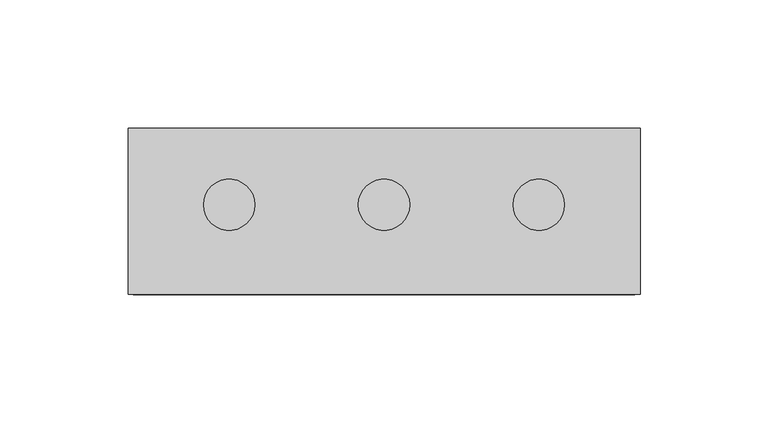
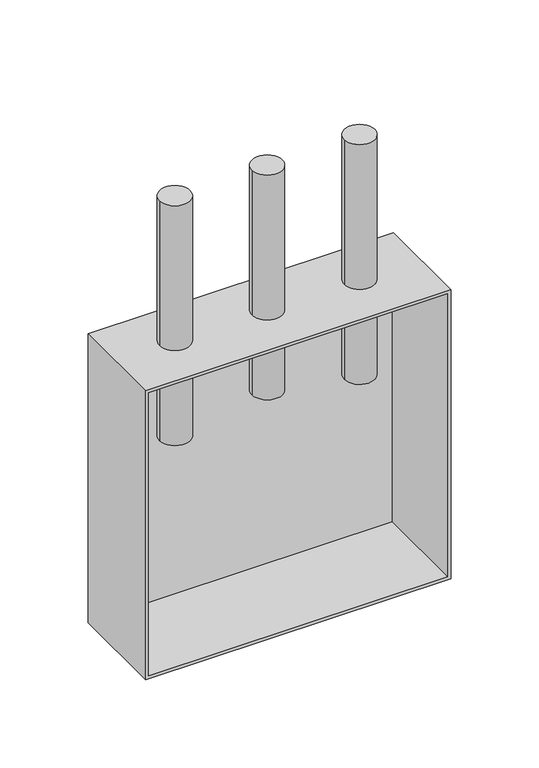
"""IFC4 building model written with IfcOpenShell, lengths in millimetres: flow terminal geometry, Plumbing Fixtures_Thermostatic Mixing Valve_Thornthwaite_Rada 215bk TMV in 200mm box : Rada 215bk TMV in an exposed stainless steel box with Lid - 40863EB200."""

from ifc_helpers import new_model, si_unit, point, frame, frame_2d, origin, place, context, project, spatial, circle_curve, trimmed, segment, composite_curve, outline, extrude, faceted_brep, source, transform, mapped, element, save


def flow_terminal_3611aa53(model_context):
    return source(origin(), model_context, "Body", "SolidModel", [
        extrude(outline(composite_curve([segment(trimmed(circle_curve(frame_2d((-60.5, 7.5)), 10.0), [point((-50.5, 7.5))], [point((-70.5, 7.5))], False, "CARTESIAN"), True, "CONTINUOUS"), segment(trimmed(circle_curve(frame_2d((-60.5, 7.5)), 10.0), [point((-70.5, 7.5))], [point((-50.5, 7.5))], False, "CARTESIAN"), True, "CONTINUOUS")], self_intersect=False)), frame((0.0, 0.0, 634.0), z_axis=(0.0, 0.0, 1.0), x_axis=(1.0, 0.0, 0.0)), (0.0, 0.0, 1.0), 166.0),
        extrude(outline(composite_curve([segment(trimmed(circle_curve(frame_2d((60.5, 7.5)), 10.0), [point((70.5, 7.5))], [point((50.5, 7.5))], False, "CARTESIAN"), True, "CONTINUOUS"), segment(trimmed(circle_curve(frame_2d((60.5, 7.5)), 10.0), [point((50.5, 7.5))], [point((70.5, 7.5))], False, "CARTESIAN"), True, "CONTINUOUS")], self_intersect=False)), frame((0.0, 0.0, 634.0), z_axis=(0.0, 0.0, 1.0), x_axis=(1.0, 0.0, 0.0)), (0.0, 0.0, 1.0), 166.0),
        extrude(outline(composite_curve([segment(trimmed(circle_curve(frame_2d((0.0, 7.5)), 10.0), [point((10.0, 7.5))], [point((-10.0, 7.5))], False, "CARTESIAN"), True, "CONTINUOUS"), segment(trimmed(circle_curve(frame_2d((0.0, 7.5)), 10.0), [point((-10.0, 7.5))], [point((10.0, 7.5))], False, "CARTESIAN"), True, "CONTINUOUS")], self_intersect=False)), frame((0.0, 0.0, 644.5), z_axis=(0.0, 0.0, 1.0), x_axis=(1.0, 0.0, 0.0)), (0.0, 0.0, 1.0), 155.5),
        faceted_brep([(-100.0, -27.5, 500.0), (100.0, -27.5, 500.0), (100.0, -27.5, 700.0), (-100.0, -27.5, 700.0), (98.0, -27.5, 698.0), (98.0, -27.5, 502.0), (-98.0, -27.5, 502.0), (-98.0, -27.5, 698.0), (-100.0, 37.5, 500.0), (-100.0, 37.5, 700.0), (100.0, 37.5, 700.0), (100.0, 37.5, 500.0), (98.0, 35.5, 698.0), (-98.0, 35.5, 698.0), (-98.0, 35.5, 502.0), (98.0, 35.5, 502.0)], [[[0, 1, 2, 3], [4, 5, 6, 7]], [[8, 9, 10, 11]], [[0, 3, 9, 8]], [[3, 2, 10, 9]], [[2, 1, 11, 10]], [[1, 0, 8, 11]], [[12, 13, 14, 15]], [[4, 7, 13, 12]], [[7, 6, 14, 13]], [[6, 5, 15, 14]], [[5, 4, 12, 15]]]),
    ])


if __name__ == "__main__":
    model = new_model("IFC4")
    model_context = context("Model", 3, world=origin())
    ifc_project = project(units=[si_unit("LENGTHUNIT", "METRE", prefix="MILLI")], contexts=[model_context])
    site = spatial("IfcSite", under=ifc_project)
    building = spatial("IfcBuilding", under=site)
    placement = place(None, origin())
    flow_terminal_shape = flow_terminal_3611aa53(model_context)
    element("IfcFlowTerminal", 1, ObjectType="Plumbing Fixtures_Thermostatic Mixing Valve_Thornthwaite_Rada 215bk TMV in 200mm box : Rada 215bk TMV in an exposed stainless steel box with Lid - 40863EB200", at=placement, inside=building, context=model_context, shape_type="MappedRepresentation", body=[
        mapped(flow_terminal_shape, transform((0.0, 0.0, 0.0), x_axis=(1.0, 0.0, 0.0), y_axis=(0.0, 1.0, 0.0), z_axis=(0.0, 0.0, 1.0))),
    ])
    save(model, "model.ifc")
